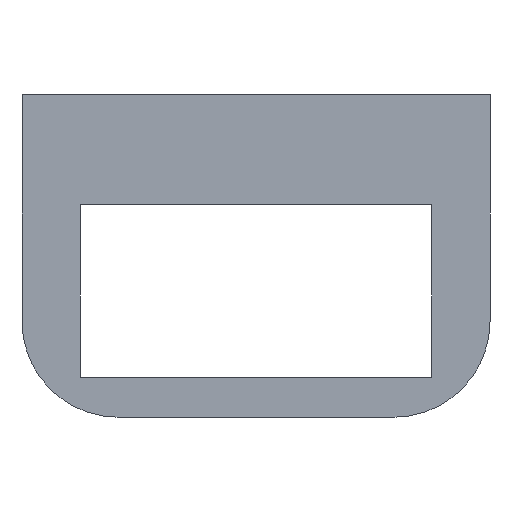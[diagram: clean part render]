
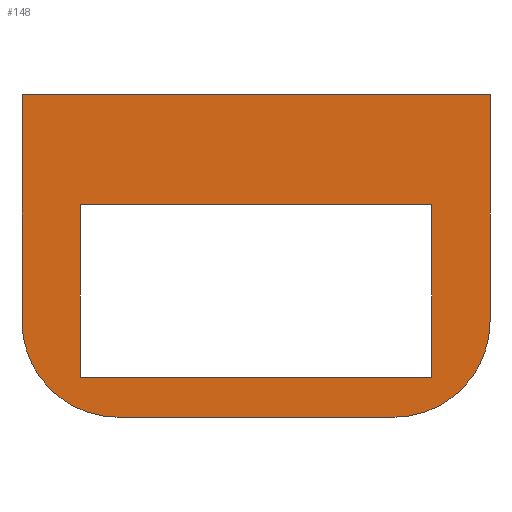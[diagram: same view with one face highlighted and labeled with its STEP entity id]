
A CAD part, left-side view. The second image highlights one B-rep face of the part: STEP entity #148.
In plain terms, the highlighted planar face has unit normal (-1, 0, 0).
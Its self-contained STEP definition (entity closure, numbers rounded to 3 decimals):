
#148=ADVANCED_FACE('',(#389,#391),#393,.F.);
#389=FACE_BOUND('',#390,.T.);
#390=EDGE_LOOP('',(#590,#591,#592,#593,#594,#595));
#391=FACE_BOUND('',#392,.T.);
#392=EDGE_LOOP('',(#596,#597,#598,#599));
#393=PLANE('',#394);
#394=AXIS2_PLACEMENT_3D('',#395,#396,#397);
#395=CARTESIAN_POINT('',(171.417,-29.983,-32.));
#396=DIRECTION('',(1.,0.,0.));
#397=DIRECTION('',(0.,1.,0.));
#590=ORIENTED_EDGE('',*,*,#726,.F.);
#591=ORIENTED_EDGE('',*,*,#714,.F.);
#592=ORIENTED_EDGE('',*,*,#699,.F.);
#593=ORIENTED_EDGE('',*,*,#688,.F.);
#594=ORIENTED_EDGE('',*,*,#696,.F.);
#595=ORIENTED_EDGE('',*,*,#702,.F.);
#596=ORIENTED_EDGE('',*,*,#694,.F.);
#597=ORIENTED_EDGE('',*,*,#684,.F.);
#598=ORIENTED_EDGE('',*,*,#676,.F.);
#599=ORIENTED_EDGE('',*,*,#680,.F.);
#676=EDGE_CURVE('',#750,#751,#752,.T.);
#680=EDGE_CURVE('',#758,#750,#759,.T.);
#684=EDGE_CURVE('',#751,#765,#766,.T.);
#688=EDGE_CURVE('',#772,#773,#774,.T.);
#694=EDGE_CURVE('',#765,#758,#784,.T.);
#696=EDGE_CURVE('',#786,#772,#787,.F.);
#699=EDGE_CURVE('',#773,#791,#792,.T.);
#702=EDGE_CURVE('',#796,#786,#797,.F.);
#714=EDGE_CURVE('',#791,#819,#820,.F.);
#726=EDGE_CURVE('',#819,#796,#842,.F.);
#750=VERTEX_POINT('',#872);
#751=VERTEX_POINT('',#873);
#752=LINE('',#874,#875);
#758=VERTEX_POINT('',#888);
#759=LINE('',#889,#890);
#765=VERTEX_POINT('',#903);
#766=LINE('',#904,#905);
#772=VERTEX_POINT('',#918);
#773=VERTEX_POINT('',#919);
#774=LINE('',#920,#921);
#784=LINE('',#942,#943);
#786=VERTEX_POINT('',#948);
#787=(BOUNDED_CURVE()B_SPLINE_CURVE(3,
(#949,#950,#951,#952),
.UNSPECIFIED.,.F.,.F.)B_SPLINE_CURVE_WITH_KNOTS((4,4),
(0.,1.),
.UNSPECIFIED.)CURVE()GEOMETRIC_REPRESENTATION_ITEM()RATIONAL_B_SPLINE_CURVE((1.,
0.805,0.805,1.))REPRESENTATION_ITEM(''));
#791=VERTEX_POINT('',#961);
#792=(BOUNDED_CURVE()B_SPLINE_CURVE(3,
(#962,#963,#964,#965),
.UNSPECIFIED.,.F.,.F.)B_SPLINE_CURVE_WITH_KNOTS((4,4),
(0.,1.),
.UNSPECIFIED.)CURVE()GEOMETRIC_REPRESENTATION_ITEM()RATIONAL_B_SPLINE_CURVE((1.,
0.805,0.805,1.))REPRESENTATION_ITEM(''));
#796=VERTEX_POINT('',#974);
#797=LINE('',#975,#976);
#819=VERTEX_POINT('',#1025);
#820=LINE('',#1026,#1027);
#842=LINE('',#1076,#1077);
#872=CARTESIAN_POINT('',(171.417,12.8,-12.6));
#873=CARTESIAN_POINT('',(171.417,-12.8,-12.6));
#874=CARTESIAN_POINT('',(171.417,12.8,-12.6));
#875=VECTOR('',#876,1.);
#876=DIRECTION('',(0.,-1.,0.));
#888=CARTESIAN_POINT('',(171.417,12.8,0.));
#889=CARTESIAN_POINT('',(171.417,12.8,0.));
#890=VECTOR('',#891,1.);
#891=DIRECTION('',(0.,0.,-1.));
#903=CARTESIAN_POINT('',(171.417,-12.8,0.));
#904=CARTESIAN_POINT('',(171.417,-12.8,-12.6));
#905=VECTOR('',#906,1.);
#906=DIRECTION('',(0.,0.,1.));
#918=CARTESIAN_POINT('',(171.417,-10.059,-15.5));
#919=CARTESIAN_POINT('',(171.417,10.059,-15.5));
#920=CARTESIAN_POINT('',(171.417,-10.059,-15.5));
#921=VECTOR('',#922,1.);
#922=DIRECTION('',(0.,1.,0.));
#942=CARTESIAN_POINT('',(171.417,-12.8,0.));
#943=VECTOR('',#944,1.);
#944=DIRECTION('',(0.,1.,0.));
#948=CARTESIAN_POINT('',(171.417,-17.059,-8.5));
#949=CARTESIAN_POINT('',(171.417,-10.059,-15.5));
#950=CARTESIAN_POINT('',(171.417,-14.16,-15.5));
#951=CARTESIAN_POINT('',(171.417,-17.059,-12.601));
#952=CARTESIAN_POINT('',(171.417,-17.059,-8.5));
#961=CARTESIAN_POINT('',(171.417,17.059,-8.5));
#962=CARTESIAN_POINT('',(171.417,10.059,-15.5));
#963=CARTESIAN_POINT('',(171.417,14.16,-15.5));
#964=CARTESIAN_POINT('',(171.417,17.059,-12.601));
#965=CARTESIAN_POINT('',(171.417,17.059,-8.5));
#974=CARTESIAN_POINT('',(171.417,-17.059,8.));
#975=CARTESIAN_POINT('',(171.417,-17.059,-8.5));
#976=VECTOR('',#977,1.);
#977=DIRECTION('',(0.,0.,1.));
#1025=CARTESIAN_POINT('',(171.417,17.059,8.));
#1026=CARTESIAN_POINT('',(171.417,17.059,8.));
#1027=VECTOR('',#1028,1.);
#1028=DIRECTION('',(0.,0.,-1.));
#1076=CARTESIAN_POINT('',(171.417,-17.059,8.));
#1077=VECTOR('',#1078,1.);
#1078=DIRECTION('',(0.,1.,0.));
